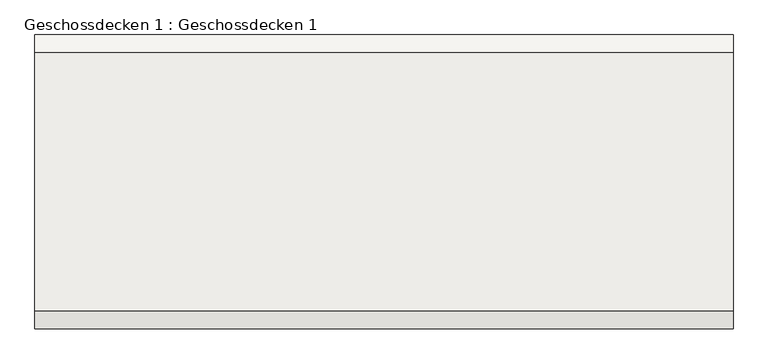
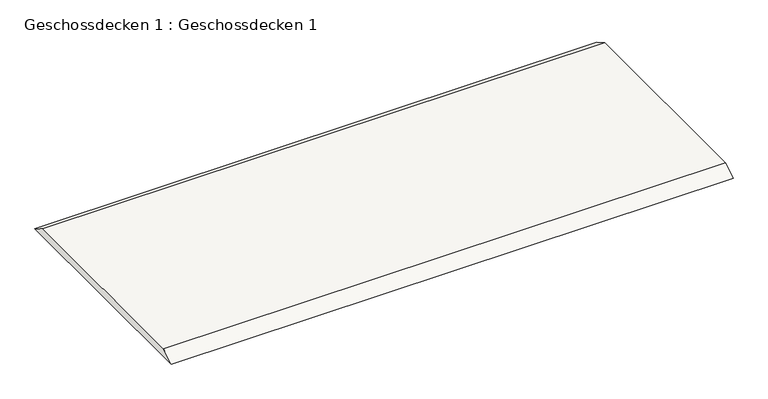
"""IFC4 building model written with IfcOpenShell, lengths in millimetres: slab geometry, Geschossdecken 1 : Geschossdecken 1."""

from ifc_helpers import new_model, si_unit, frame, origin, place, context, project, spatial, polyline, outline, extrude, source, transform, mapped, element, save


def geschossdecken_1_geschossdecken_1_8f5f6107(model_context):
    return source(origin(), model_context, "Body", "SweptSolid", [
        extrude(outline(polyline([(1516.6040226, 1000.0), (-7319.2943623, 1000.0), (-6799.67912, 1300.0), (996.9887803, 1300.0), (1516.6040226, 1000.0)])), frame((-9924.7018433, 0.0, 0.0), z_axis=(1.0, 0.0, 0.0), x_axis=(0.0, 1.0, 0.0)), (0.0, 0.0, 1.0), 21000.0),
    ])


if __name__ == "__main__":
    model = new_model("IFC4")
    model_context = context("Model", 3, world=origin())
    ifc_project = project(units=[si_unit("LENGTHUNIT", "METRE", prefix="MILLI")], contexts=[model_context])
    site = spatial("IfcSite", under=ifc_project)
    building = spatial("IfcBuilding", under=site)
    placement = place(None, origin())
    geschossdecken_1_geschossdecken_1_shape = geschossdecken_1_geschossdecken_1_8f5f6107(model_context)
    element("IfcSlab", 1, ObjectType="Geschossdecken 1 : Geschossdecken 1", at=placement, inside=building, context=model_context, shape_type="MappedRepresentation", body=[
        mapped(geschossdecken_1_geschossdecken_1_shape, transform((0.0, 0.0, 0.0), x_axis=(1.0, 0.0, 0.0), y_axis=(0.0, 1.0, 0.0), z_axis=(0.0, 0.0, 1.0))),
    ])
    save(model, "model.ifc")
